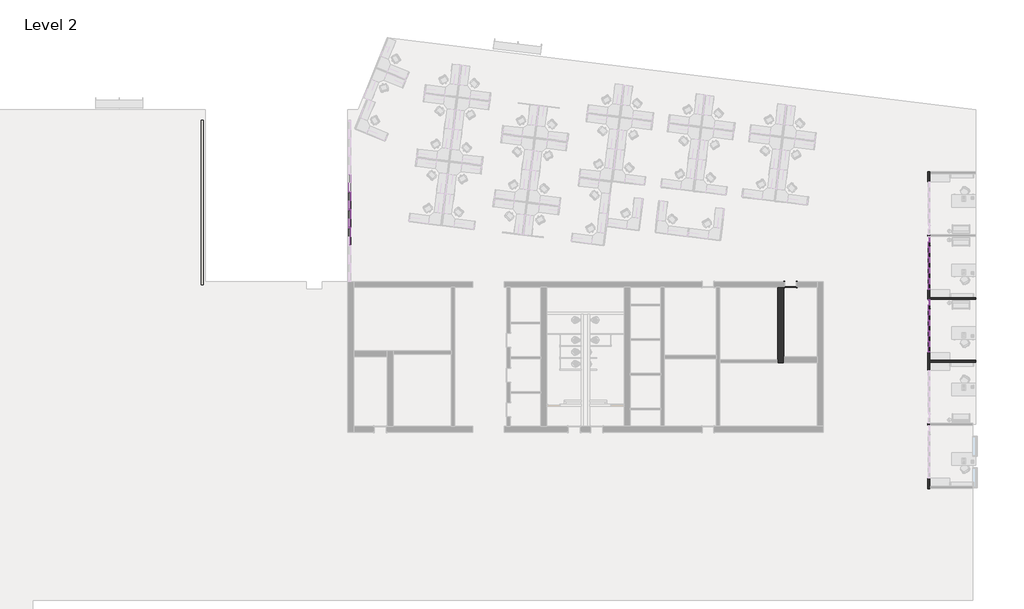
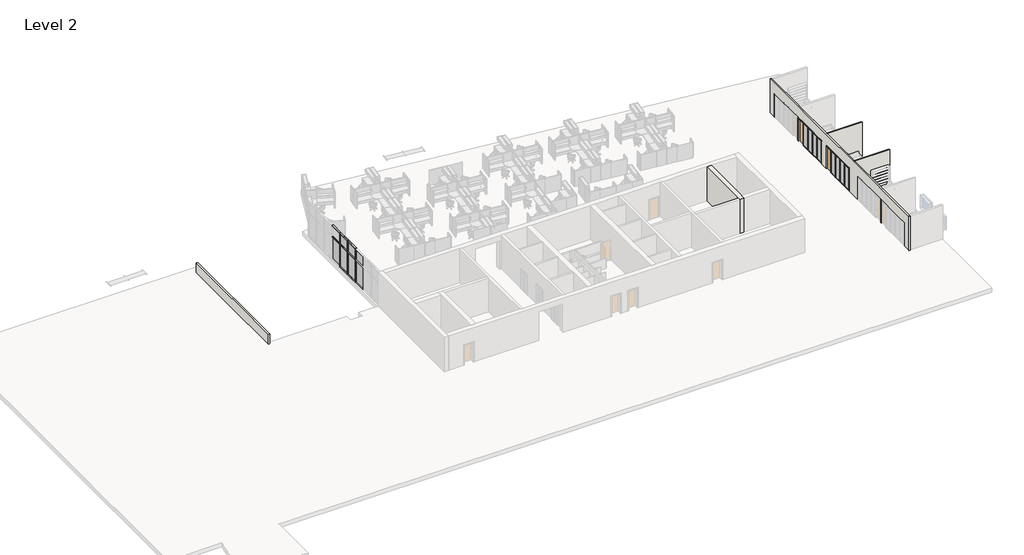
# One storey, part 3 of 7: 64 members, 25 plates, 7 walls, 3 doors.
"""IFC4 building model written with IfcOpenShell, lengths in millimetres."""

from ifc_helpers import new_model, si_unit, frame, origin, place, context, project, spatial, polyline, outline, extrude, faceted_brep, transform, mapped, element, save
from components import curtain_wall_sgl_glass_curtain_wall_sgl_glass_683140d0, door_3c99239a, member_9597caa3, member_b2bde9e6, member_7ffbafd8, member_47ea2df9, member_5507c937, member_0e55f5ff, member_ee409385, member_6d48148e, member_7899ddbe, member_c64c2408, member_866a01fa, member_13474e0d, system_panel_glazed_8093bbd9, system_panel_glazed_50fd444c, system_panel_glazed_f79f5f4b, system_panel_glazed_e5c5d69c

model = new_model("IFC4")

# Units and contexts
model_context = context("Model", 3, world=origin())
ifc_project = project(units=[si_unit("LENGTHUNIT", "METRE", prefix="MILLI")], contexts=[model_context])

# Site, building, storey
site = spatial("IfcSite", under=ifc_project)
building = spatial("IfcBuilding", under=site)
storey = spatial("IfcBuildingStorey", under=building, Name="Level 2", Elevation=3657.6)

# Doors
placement = place(None, origin())
curtain_wall_sgl_glass_curtain_wall_sgl_glass_shape = curtain_wall_sgl_glass_curtain_wall_sgl_glass_683140d0(model_context)
element("IfcDoor", 1, ObjectType="Curtain Wall Sgl Glass : Curtain Wall Sgl Glass", at=placement, inside=storey, context=model_context, shape_type="MappedRepresentation", body=[
    mapped(curtain_wall_sgl_glass_curtain_wall_sgl_glass_shape, transform((11449.2054088, -211.6299475, 3657.6), x_axis=(0.0, 1.0, 0.0), y_axis=(-1.0, 0.0, 0.0), z_axis=(0.0, 0.0, 1.0))),
])
element("IfcDoor", 2, ObjectType="Curtain Wall Sgl Glass : Curtain Wall Sgl Glass", at=placement, inside=storey, context=model_context, shape_type="MappedRepresentation", body=[
    mapped(curtain_wall_sgl_glass_curtain_wall_sgl_glass_shape, transform((11449.2054088, -5046.1342481, 3657.6), x_axis=(0.0, 1.0, 0.0), y_axis=(-1.0, 0.0, 0.0), z_axis=(0.0, 0.0, 1.0))),
])
door_shape = door_3c99239a(model_context)
element("IfcDoor", 3, ObjectType="Single-Flush : 36\" x 84\"", at=placement, inside=storey, context=model_context, shape_type="MappedRepresentation", body=[
    mapped(door_shape, transform((817.7000645, -3469.6103492, 3657.6), x_axis=(-1.0, 0.0, 0.0), y_axis=(0.0, -1.0, 0.0), z_axis=(0.0, 0.0, 1.0))),
])

# Members
member_shape = member_9597caa3(model_context)
element("IfcMember", 4, ObjectType="Rectangular Mullion : 2.5\" x 5\" rectangular", at=placement, inside=storey, context=model_context, shape_type="MappedRepresentation", body=[
    mapped(member_shape, transform((-33055.0142212, 3645.211873, 3721.1), x_axis=(0.0, -1.0, 0.0), y_axis=(-1.0, 0.0, 0.0), z_axis=(0.0, 0.0, -1.0))),
])
element("IfcMember", 5, ObjectType="Rectangular Mullion : 2.5\" x 5\" rectangular", at=placement, inside=storey, context=model_context, shape_type="MappedRepresentation", body=[
    mapped(member_shape, transform((-33055.0142212, 2267.9674286, 3721.1), x_axis=(0.0, -1.0, 0.0), y_axis=(-1.0, 0.0, 0.0), z_axis=(0.0, 0.0, -1.0))),
])
element("IfcMember", 6, ObjectType="Rectangular Mullion : 2.5\" x 5\" rectangular", at=placement, inside=storey, context=model_context, shape_type="MappedRepresentation", body=[
    mapped(member_shape, transform((-33055.0142212, 890.7229841, 3721.1), x_axis=(0.0, -1.0, 0.0), y_axis=(-1.0, 0.0, 0.0), z_axis=(0.0, 0.0, -1.0))),
])
element("IfcMember", 7, ObjectType="Rectangular Mullion : 2.5\" x 5\" rectangular", at=placement, inside=storey, context=model_context, shape_type="MappedRepresentation", body=[
    mapped(member_shape, transform((11449.2054088, -612.9499475, 3721.1), x_axis=(0.0, -1.0, 0.0), y_axis=(-1.0, 0.0, 0.0), z_axis=(0.0, 0.0, -1.0))),
])
element("IfcMember", 8, ObjectType="Rectangular Mullion : 2.5\" x 5\" rectangular", at=placement, inside=storey, context=model_context, shape_type="MappedRepresentation", body=[
    mapped(member_shape, transform((11449.2054088, -1415.5899475, 3721.1), x_axis=(0.0, -1.0, 0.0), y_axis=(-1.0, 0.0, 0.0), z_axis=(0.0, 0.0, -1.0))),
])
element("IfcMember", 9, ObjectType="Rectangular Mullion : 2.5\" x 5\" rectangular", at=placement, inside=storey, context=model_context, shape_type="MappedRepresentation", body=[
    mapped(member_shape, transform((11449.2054088, -2218.2299475, 3721.1), x_axis=(0.0, -1.0, 0.0), y_axis=(-1.0, 0.0, 0.0), z_axis=(0.0, 0.0, -1.0))),
])
element("IfcMember", 10, ObjectType="Rectangular Mullion : 2.5\" x 5\" rectangular", at=placement, inside=storey, context=model_context, shape_type="MappedRepresentation", body=[
    mapped(member_shape, transform((11449.2054088, -3020.8699475, 3721.1), x_axis=(0.0, -1.0, 0.0), y_axis=(-1.0, 0.0, 0.0), z_axis=(0.0, 0.0, -1.0))),
])
element("IfcMember", 11, ObjectType="Rectangular Mullion : 2.5\" x 5\" rectangular", at=placement, inside=storey, context=model_context, shape_type="MappedRepresentation", body=[
    mapped(member_shape, transform((11449.2054088, -5447.4542481, 3721.1), x_axis=(0.0, -1.0, 0.0), y_axis=(-1.0, 0.0, 0.0), z_axis=(0.0, 0.0, -1.0))),
])
element("IfcMember", 12, ObjectType="Rectangular Mullion : 2.5\" x 5\" rectangular", at=placement, inside=storey, context=model_context, shape_type="MappedRepresentation", body=[
    mapped(member_shape, transform((11449.2054088, -6250.0942481, 3721.1), x_axis=(0.0, -1.0, 0.0), y_axis=(-1.0, 0.0, 0.0), z_axis=(0.0, 0.0, -1.0))),
])
element("IfcMember", 13, ObjectType="Rectangular Mullion : 2.5\" x 5\" rectangular", at=placement, inside=storey, context=model_context, shape_type="MappedRepresentation", body=[
    mapped(member_shape, transform((11449.2054088, -7052.7342481, 3721.1), x_axis=(0.0, -1.0, 0.0), y_axis=(-1.0, 0.0, 0.0), z_axis=(0.0, 0.0, -1.0))),
])
element("IfcMember", 14, ObjectType="Rectangular Mullion : 2.5\" x 5\" rectangular", at=placement, inside=storey, context=model_context, shape_type="MappedRepresentation", body=[
    mapped(member_shape, transform((11449.2054088, -7855.3742481, 3721.1), x_axis=(0.0, -1.0, 0.0), y_axis=(-1.0, 0.0, 0.0), z_axis=(0.0, 0.0, -1.0))),
])
member_2_shape = member_b2bde9e6(model_context)
element("IfcMember", 15, ObjectType="Rectangular Mullion : 2.5\" x 5\" rectangular", at=placement, inside=storey, context=model_context, shape_type="MappedRepresentation", body=[
    mapped(member_2_shape, transform((11449.2054088, -3855.2599475, 3721.1), x_axis=(0.0, -1.0, 0.0), y_axis=(-1.0, 0.0, 0.0), z_axis=(0.0, 0.0, -1.0))),
])
element("IfcMember", 16, ObjectType="Rectangular Mullion : 2.5\" x 5\" rectangular", at=placement, inside=storey, context=model_context, shape_type="MappedRepresentation", body=[
    mapped(member_2_shape, transform((11449.2054088, -8689.7642481, 3721.1), x_axis=(0.0, -1.0, 0.0), y_axis=(-1.0, 0.0, 0.0), z_axis=(0.0, 0.0, -1.0))),
])
member_3_shape = member_7ffbafd8(model_context)
element("IfcMember", 17, ObjectType="Rectangular Mullion : 2.5\" x 5\" rectangular", at=placement, inside=storey, context=model_context, shape_type="MappedRepresentation", body=[
    mapped(member_3_shape, transform((11449.2054088, -3855.2599475, 6197.6), x_axis=(0.0, 0.0, 1.0), y_axis=(-1.0, 0.0, 0.0), z_axis=(0.0, -1.0, 0.0))),
])
element("IfcMember", 18, ObjectType="Rectangular Mullion : 2.5\" x 5\" rectangular", at=placement, inside=storey, context=model_context, shape_type="MappedRepresentation", body=[
    mapped(member_3_shape, transform((11449.2054088, -612.9499475, 6197.6), x_axis=(0.0, 0.0, 1.0), y_axis=(-1.0, 0.0, 0.0), z_axis=(0.0, -1.0, 0.0))),
])
element("IfcMember", 19, ObjectType="Rectangular Mullion : 2.5\" x 5\" rectangular", at=placement, inside=storey, context=model_context, shape_type="MappedRepresentation", body=[
    mapped(member_3_shape, transform((11449.2054088, -5447.4542481, 6197.6), x_axis=(0.0, 0.0, 1.0), y_axis=(-1.0, 0.0, 0.0), z_axis=(0.0, -1.0, 0.0))),
])
element("IfcMember", 20, ObjectType="Rectangular Mullion : 2.5\" x 5\" rectangular", at=placement, inside=storey, context=model_context, shape_type="MappedRepresentation", body=[
    mapped(member_3_shape, transform((11449.2054088, -581.1999475, 3657.6), x_axis=(0.0, 0.0, -1.0), y_axis=(-1.0, 0.0, 0.0), z_axis=(0.0, 1.0, 0.0))),
])
element("IfcMember", 21, ObjectType="Rectangular Mullion : 2.5\" x 5\" rectangular", at=placement, inside=storey, context=model_context, shape_type="MappedRepresentation", body=[
    mapped(member_3_shape, transform((11449.2054088, -5415.7042481, 3657.6), x_axis=(0.0, 0.0, -1.0), y_axis=(-1.0, 0.0, 0.0), z_axis=(0.0, 1.0, 0.0))),
])
member_4_shape = member_47ea2df9(model_context)
element("IfcMember", 22, ObjectType="Rectangular Mullion : 2.5\" x 5\" rectangular", at=placement, inside=storey, context=model_context, shape_type="MappedRepresentation", body=[
    mapped(member_4_shape, transform((11449.2054088, -1415.5899475, 6096.0), x_axis=(0.0, 0.0, 1.0), y_axis=(-1.0, 0.0, 0.0), z_axis=(0.0, -1.0, 0.0))),
])
element("IfcMember", 23, ObjectType="Rectangular Mullion : 2.5\" x 5\" rectangular", at=placement, inside=storey, context=model_context, shape_type="MappedRepresentation", body=[
    mapped(member_4_shape, transform((11449.2054088, -2218.2299475, 6096.0), x_axis=(0.0, 0.0, 1.0), y_axis=(-1.0, 0.0, 0.0), z_axis=(0.0, -1.0, 0.0))),
])
element("IfcMember", 24, ObjectType="Rectangular Mullion : 2.5\" x 5\" rectangular", at=placement, inside=storey, context=model_context, shape_type="MappedRepresentation", body=[
    mapped(member_4_shape, transform((11449.2054088, -3020.8699475, 6096.0), x_axis=(0.0, 0.0, 1.0), y_axis=(-1.0, 0.0, 0.0), z_axis=(0.0, -1.0, 0.0))),
])
element("IfcMember", 25, ObjectType="Rectangular Mullion : 2.5\" x 5\" rectangular", at=placement, inside=storey, context=model_context, shape_type="MappedRepresentation", body=[
    mapped(member_4_shape, transform((11449.2054088, -6250.0942481, 6096.0), x_axis=(0.0, 0.0, 1.0), y_axis=(-1.0, 0.0, 0.0), z_axis=(0.0, -1.0, 0.0))),
])
element("IfcMember", 26, ObjectType="Rectangular Mullion : 2.5\" x 5\" rectangular", at=placement, inside=storey, context=model_context, shape_type="MappedRepresentation", body=[
    mapped(member_4_shape, transform((11449.2054088, -7052.7342481, 6096.0), x_axis=(0.0, 0.0, 1.0), y_axis=(-1.0, 0.0, 0.0), z_axis=(0.0, -1.0, 0.0))),
])
element("IfcMember", 27, ObjectType="Rectangular Mullion : 2.5\" x 5\" rectangular", at=placement, inside=storey, context=model_context, shape_type="MappedRepresentation", body=[
    mapped(member_4_shape, transform((11449.2054088, -7855.3742481, 6096.0), x_axis=(0.0, 0.0, 1.0), y_axis=(-1.0, 0.0, 0.0), z_axis=(0.0, -1.0, 0.0))),
])
member_5_shape = member_5507c937(model_context)
element("IfcMember", 28, ObjectType="Rectangular Mullion : 2.5\" x 5\" rectangular", at=placement, inside=storey, context=model_context, shape_type="MappedRepresentation", body=[
    mapped(member_5_shape, transform((11449.2054088, -1415.5899475, 6197.6), x_axis=(0.0, 0.0, 1.0), y_axis=(-1.0, 0.0, 0.0), z_axis=(0.0, -1.0, 0.0))),
])
element("IfcMember", 29, ObjectType="Rectangular Mullion : 2.5\" x 5\" rectangular", at=placement, inside=storey, context=model_context, shape_type="MappedRepresentation", body=[
    mapped(member_5_shape, transform((11449.2054088, -2218.2299475, 6197.6), x_axis=(0.0, 0.0, 1.0), y_axis=(-1.0, 0.0, 0.0), z_axis=(0.0, -1.0, 0.0))),
])
element("IfcMember", 30, ObjectType="Rectangular Mullion : 2.5\" x 5\" rectangular", at=placement, inside=storey, context=model_context, shape_type="MappedRepresentation", body=[
    mapped(member_5_shape, transform((11449.2054088, -3020.8699475, 6197.6), x_axis=(0.0, 0.0, 1.0), y_axis=(-1.0, 0.0, 0.0), z_axis=(0.0, -1.0, 0.0))),
])
element("IfcMember", 31, ObjectType="Rectangular Mullion : 2.5\" x 5\" rectangular", at=placement, inside=storey, context=model_context, shape_type="MappedRepresentation", body=[
    mapped(member_5_shape, transform((11449.2054088, -6250.0942481, 6197.6), x_axis=(0.0, 0.0, 1.0), y_axis=(-1.0, 0.0, 0.0), z_axis=(0.0, -1.0, 0.0))),
])
element("IfcMember", 32, ObjectType="Rectangular Mullion : 2.5\" x 5\" rectangular", at=placement, inside=storey, context=model_context, shape_type="MappedRepresentation", body=[
    mapped(member_5_shape, transform((11449.2054088, -7052.7342481, 6197.6), x_axis=(0.0, 0.0, 1.0), y_axis=(-1.0, 0.0, 0.0), z_axis=(0.0, -1.0, 0.0))),
])
element("IfcMember", 33, ObjectType="Rectangular Mullion : 2.5\" x 5\" rectangular", at=placement, inside=storey, context=model_context, shape_type="MappedRepresentation", body=[
    mapped(member_5_shape, transform((11449.2054088, -7855.3742481, 6197.6), x_axis=(0.0, 0.0, 1.0), y_axis=(-1.0, 0.0, 0.0), z_axis=(0.0, -1.0, 0.0))),
])
element("IfcMember", 34, ObjectType="Rectangular Mullion : 2.5\" x 5\" rectangular", at=placement, inside=storey, context=model_context, shape_type="MappedRepresentation", body=[
    mapped(member_5_shape, transform((11449.2054088, -1415.5899475, 3657.6), x_axis=(0.0, 0.0, -1.0), y_axis=(-1.0, 0.0, 0.0), z_axis=(0.0, 1.0, 0.0))),
])
element("IfcMember", 35, ObjectType="Rectangular Mullion : 2.5\" x 5\" rectangular", at=placement, inside=storey, context=model_context, shape_type="MappedRepresentation", body=[
    mapped(member_5_shape, transform((11449.2054088, -2218.2299475, 3657.6), x_axis=(0.0, 0.0, -1.0), y_axis=(-1.0, 0.0, 0.0), z_axis=(0.0, 1.0, 0.0))),
])
element("IfcMember", 36, ObjectType="Rectangular Mullion : 2.5\" x 5\" rectangular", at=placement, inside=storey, context=model_context, shape_type="MappedRepresentation", body=[
    mapped(member_5_shape, transform((11449.2054088, -6250.0942481, 3657.6), x_axis=(0.0, 0.0, -1.0), y_axis=(-1.0, 0.0, 0.0), z_axis=(0.0, 1.0, 0.0))),
])
element("IfcMember", 37, ObjectType="Rectangular Mullion : 2.5\" x 5\" rectangular", at=placement, inside=storey, context=model_context, shape_type="MappedRepresentation", body=[
    mapped(member_5_shape, transform((11449.2054088, -7052.7342481, 3657.6), x_axis=(0.0, 0.0, -1.0), y_axis=(-1.0, 0.0, 0.0), z_axis=(0.0, 1.0, 0.0))),
])
element("IfcMember", 38, ObjectType="Rectangular Mullion : 2.5\" x 5\" rectangular", at=placement, inside=storey, context=model_context, shape_type="MappedRepresentation", body=[
    mapped(member_3_shape, transform((11449.2054088, -3020.8699475, 3657.6), x_axis=(0.0, 0.0, -1.0), y_axis=(-1.0, 0.0, 0.0), z_axis=(0.0, 1.0, 0.0))),
])
element("IfcMember", 39, ObjectType="Rectangular Mullion : 2.5\" x 5\" rectangular", at=placement, inside=storey, context=model_context, shape_type="MappedRepresentation", body=[
    mapped(member_3_shape, transform((11449.2054088, -7855.3742481, 3657.6), x_axis=(0.0, 0.0, -1.0), y_axis=(-1.0, 0.0, 0.0), z_axis=(0.0, 1.0, 0.0))),
])
member_6_shape = member_0e55f5ff(model_context)
element("IfcMember", 40, ObjectType="Rectangular Mullion : 2.5\" x 5\" rectangular", at=placement, inside=storey, context=model_context, shape_type="MappedRepresentation", body=[
    mapped(member_6_shape, transform((11449.2054088, -3791.7599475, 6096.0), x_axis=(0.0, 0.0, 1.0), y_axis=(-1.0, 0.0, 0.0), z_axis=(0.0, -1.0, 0.0))),
])
element("IfcMember", 41, ObjectType="Rectangular Mullion : 2.5\" x 5\" rectangular", at=placement, inside=storey, context=model_context, shape_type="MappedRepresentation", body=[
    mapped(member_6_shape, transform((11449.2054088, -8626.2642481, 6096.0), x_axis=(0.0, 0.0, 1.0), y_axis=(-1.0, 0.0, 0.0), z_axis=(0.0, -1.0, 0.0))),
])
element("IfcMember", 42, ObjectType="Rectangular Mullion : 2.5\" x 5\" rectangular", at=placement, inside=storey, context=model_context, shape_type="MappedRepresentation", body=[
    mapped(member_6_shape, transform((11449.2054088, -612.9499475, 6096.0), x_axis=(0.0, 0.0, 1.0), y_axis=(-1.0, 0.0, 0.0), z_axis=(0.0, -1.0, 0.0))),
])
element("IfcMember", 43, ObjectType="Rectangular Mullion : 2.5\" x 5\" rectangular", at=placement, inside=storey, context=model_context, shape_type="MappedRepresentation", body=[
    mapped(member_6_shape, transform((11449.2054088, -5447.4542481, 6096.0), x_axis=(0.0, 0.0, 1.0), y_axis=(-1.0, 0.0, 0.0), z_axis=(0.0, -1.0, 0.0))),
])
member_7_shape = member_ee409385(model_context)
element("IfcMember", 44, ObjectType="Rectangular Mullion : 2.5\" x 5\" rectangular", at=placement, inside=storey, context=model_context, shape_type="MappedRepresentation", body=[
    mapped(member_7_shape, transform((11449.2054088, -4613.0642481, 6096.0), x_axis=(0.0, 1.0, 0.0), y_axis=(-1.0, 0.0, 0.0), z_axis=(0.0, 0.0, 1.0))),
])
member_8_shape = member_6d48148e(model_context)
element("IfcMember", 45, ObjectType="Rectangular Mullion : 2.5\" x 5\" rectangular", at=placement, inside=storey, context=model_context, shape_type="MappedRepresentation", body=[
    mapped(member_8_shape, transform((11449.2054088, -612.9499475, 6127.75), x_axis=(0.0, -1.0, 0.0), y_axis=(-1.0, 0.0, 0.0), z_axis=(0.0, 0.0, -1.0))),
])
element("IfcMember", 46, ObjectType="Rectangular Mullion : 2.5\" x 5\" rectangular", at=placement, inside=storey, context=model_context, shape_type="MappedRepresentation", body=[
    mapped(member_8_shape, transform((11449.2054088, -1415.5899475, 6127.75), x_axis=(0.0, -1.0, 0.0), y_axis=(-1.0, 0.0, 0.0), z_axis=(0.0, 0.0, -1.0))),
])
element("IfcMember", 47, ObjectType="Rectangular Mullion : 2.5\" x 5\" rectangular", at=placement, inside=storey, context=model_context, shape_type="MappedRepresentation", body=[
    mapped(member_8_shape, transform((11449.2054088, -2218.2299475, 6127.75), x_axis=(0.0, -1.0, 0.0), y_axis=(-1.0, 0.0, 0.0), z_axis=(0.0, 0.0, -1.0))),
])
element("IfcMember", 48, ObjectType="Rectangular Mullion : 2.5\" x 5\" rectangular", at=placement, inside=storey, context=model_context, shape_type="MappedRepresentation", body=[
    mapped(member_8_shape, transform((11449.2054088, -3020.8699475, 6127.75), x_axis=(0.0, -1.0, 0.0), y_axis=(-1.0, 0.0, 0.0), z_axis=(0.0, 0.0, -1.0))),
])
element("IfcMember", 49, ObjectType="Rectangular Mullion : 2.5\" x 5\" rectangular", at=placement, inside=storey, context=model_context, shape_type="MappedRepresentation", body=[
    mapped(member_8_shape, transform((11449.2054088, -5447.4542481, 6127.75), x_axis=(0.0, -1.0, 0.0), y_axis=(-1.0, 0.0, 0.0), z_axis=(0.0, 0.0, -1.0))),
])
element("IfcMember", 50, ObjectType="Rectangular Mullion : 2.5\" x 5\" rectangular", at=placement, inside=storey, context=model_context, shape_type="MappedRepresentation", body=[
    mapped(member_8_shape, transform((11449.2054088, -6250.0942481, 6127.75), x_axis=(0.0, -1.0, 0.0), y_axis=(-1.0, 0.0, 0.0), z_axis=(0.0, 0.0, -1.0))),
])
element("IfcMember", 51, ObjectType="Rectangular Mullion : 2.5\" x 5\" rectangular", at=placement, inside=storey, context=model_context, shape_type="MappedRepresentation", body=[
    mapped(member_8_shape, transform((11449.2054088, -7052.7342481, 6127.75), x_axis=(0.0, -1.0, 0.0), y_axis=(-1.0, 0.0, 0.0), z_axis=(0.0, 0.0, -1.0))),
])
element("IfcMember", 52, ObjectType="Rectangular Mullion : 2.5\" x 5\" rectangular", at=placement, inside=storey, context=model_context, shape_type="MappedRepresentation", body=[
    mapped(member_8_shape, transform((11449.2054088, -7855.3742481, 6127.75), x_axis=(0.0, -1.0, 0.0), y_axis=(-1.0, 0.0, 0.0), z_axis=(0.0, 0.0, -1.0))),
])
member_9_shape = member_7899ddbe(model_context)
element("IfcMember", 53, ObjectType="Rectangular Mullion : 2.5\" x 5\" rectangular", at=placement, inside=storey, context=model_context, shape_type="MappedRepresentation", body=[
    mapped(member_9_shape, transform((11449.2054088, -3855.2599475, 6096.0), x_axis=(0.0, -1.0, 0.0), y_axis=(-1.0, 0.0, 0.0), z_axis=(0.0, 0.0, -1.0))),
])
element("IfcMember", 54, ObjectType="Rectangular Mullion : 2.5\" x 5\" rectangular", at=placement, inside=storey, context=model_context, shape_type="MappedRepresentation", body=[
    mapped(member_9_shape, transform((11449.2054088, -8689.7642481, 6096.0), x_axis=(0.0, -1.0, 0.0), y_axis=(-1.0, 0.0, 0.0), z_axis=(0.0, 0.0, -1.0))),
])
element("IfcMember", 55, ObjectType="Rectangular Mullion : 2.5\" x 5\" rectangular", at=placement, inside=storey, context=model_context, shape_type="MappedRepresentation", body=[
    mapped(member_9_shape, transform((11449.2054088, -4613.0642481, 6134.1), x_axis=(0.0, 1.0, 0.0), y_axis=(-1.0, 0.0, 0.0), z_axis=(0.0, 0.0, 1.0))),
])
member_10_shape = member_c64c2408(model_context)
element("IfcMember", 56, ObjectType="Rectangular Mullion : 2.5\" x 5\" rectangular", at=placement, inside=storey, context=model_context, shape_type="MappedRepresentation", body=[
    mapped(member_10_shape, transform((-33055.0142212, 3645.211873, 7315.2), x_axis=(0.0, 0.0, 1.0), y_axis=(-1.0, 0.0, 0.0), z_axis=(0.0, -1.0, 0.0))),
])
element("IfcMember", 57, ObjectType="Rectangular Mullion : 2.5\" x 5\" rectangular", at=placement, inside=storey, context=model_context, shape_type="MappedRepresentation", body=[
    mapped(member_10_shape, transform((-33055.0142212, 2267.9674286, 7315.2), x_axis=(0.0, 0.0, 1.0), y_axis=(-1.0, 0.0, 0.0), z_axis=(0.0, -1.0, 0.0))),
])
element("IfcMember", 58, ObjectType="Rectangular Mullion : 2.5\" x 5\" rectangular", at=placement, inside=storey, context=model_context, shape_type="MappedRepresentation", body=[
    mapped(member_10_shape, transform((-33055.0142212, 890.7229841, 7315.2), x_axis=(0.0, 0.0, 1.0), y_axis=(-1.0, 0.0, 0.0), z_axis=(0.0, -1.0, 0.0))),
])
element("IfcMember", 59, ObjectType="Rectangular Mullion : 2.5\" x 5\" rectangular", at=placement, inside=storey, context=model_context, shape_type="MappedRepresentation", body=[
    mapped(member_10_shape, transform((-33055.0142212, 3645.211873, 3657.6), x_axis=(0.0, 0.0, -1.0), y_axis=(-1.0, 0.0, 0.0), z_axis=(0.0, 1.0, 0.0))),
])
element("IfcMember", 60, ObjectType="Rectangular Mullion : 2.5\" x 5\" rectangular", at=placement, inside=storey, context=model_context, shape_type="MappedRepresentation", body=[
    mapped(member_10_shape, transform((-33055.0142212, 2267.9674286, 3657.6), x_axis=(0.0, 0.0, -1.0), y_axis=(-1.0, 0.0, 0.0), z_axis=(0.0, 1.0, 0.0))),
])
element("IfcMember", 61, ObjectType="Rectangular Mullion : 2.5\" x 5\" rectangular", at=placement, inside=storey, context=model_context, shape_type="MappedRepresentation", body=[
    mapped(member_10_shape, transform((-33055.0142212, 890.7229841, 3657.6), x_axis=(0.0, 0.0, -1.0), y_axis=(-1.0, 0.0, 0.0), z_axis=(0.0, 1.0, 0.0))),
])
member_11_shape = member_866a01fa(model_context)
element("IfcMember", 62, ObjectType="Rectangular Mullion : 2.5\" x 5\" rectangular", at=placement, inside=storey, context=model_context, shape_type="MappedRepresentation", body=[
    mapped(member_11_shape, transform((-33055.0142212, 3645.211873, 6127.75), x_axis=(0.0, -1.0, 0.0), y_axis=(-1.0, 0.0, 0.0), z_axis=(0.0, 0.0, -1.0))),
])
element("IfcMember", 63, ObjectType="Rectangular Mullion : 2.5\" x 5\" rectangular", at=placement, inside=storey, context=model_context, shape_type="MappedRepresentation", body=[
    mapped(member_11_shape, transform((-33055.0142212, 2267.9674286, 6127.75), x_axis=(0.0, -1.0, 0.0), y_axis=(-1.0, 0.0, 0.0), z_axis=(0.0, 0.0, -1.0))),
])
element("IfcMember", 64, ObjectType="Rectangular Mullion : 2.5\" x 5\" rectangular", at=placement, inside=storey, context=model_context, shape_type="MappedRepresentation", body=[
    mapped(member_11_shape, transform((-33055.0142212, 890.7229841, 6127.75), x_axis=(0.0, -1.0, 0.0), y_axis=(-1.0, 0.0, 0.0), z_axis=(0.0, 0.0, -1.0))),
])
member_12_shape = member_13474e0d(model_context)
element("IfcMember", 65, ObjectType="Rectangular Mullion : 2.5\" x 5\" rectangular", at=placement, inside=storey, context=model_context, shape_type="MappedRepresentation", body=[
    mapped(member_12_shape, transform((-33055.0142212, 3645.211873, 6096.0), x_axis=(0.0, 0.0, 1.0), y_axis=(-1.0, 0.0, 0.0), z_axis=(0.0, -1.0, 0.0))),
])
element("IfcMember", 66, ObjectType="Rectangular Mullion : 2.5\" x 5\" rectangular", at=placement, inside=storey, context=model_context, shape_type="MappedRepresentation", body=[
    mapped(member_12_shape, transform((-33055.0142212, 2267.9674286, 6096.0), x_axis=(0.0, 0.0, 1.0), y_axis=(-1.0, 0.0, 0.0), z_axis=(0.0, -1.0, 0.0))),
])
element("IfcMember", 67, ObjectType="Rectangular Mullion : 2.5\" x 5\" rectangular", at=placement, inside=storey, context=model_context, shape_type="MappedRepresentation", body=[
    mapped(member_12_shape, transform((-33055.0142212, 890.7229841, 6096.0), x_axis=(0.0, 0.0, 1.0), y_axis=(-1.0, 0.0, 0.0), z_axis=(0.0, -1.0, 0.0))),
])

# Plates
system_panel_glazed_shape = system_panel_glazed_8093bbd9(model_context)
element("IfcPlate", 68, ObjectType="System Panel : Glazed", at=placement, inside=storey, context=model_context, shape_type="MappedRepresentation", body=[
    mapped(system_panel_glazed_shape, transform((11449.2054088, -1014.2699475, 3721.1), x_axis=(0.0, -1.0, 0.0), y_axis=(1.0, 0.0, 0.0), z_axis=(0.0, 0.0, 1.0))),
])
element("IfcPlate", 69, ObjectType="System Panel : Glazed", at=placement, inside=storey, context=model_context, shape_type="MappedRepresentation", body=[
    mapped(system_panel_glazed_shape, transform((11449.2054088, -1816.9099475, 3721.1), x_axis=(0.0, -1.0, 0.0), y_axis=(1.0, 0.0, 0.0), z_axis=(0.0, 0.0, 1.0))),
])
element("IfcPlate", 70, ObjectType="System Panel : Glazed", at=placement, inside=storey, context=model_context, shape_type="MappedRepresentation", body=[
    mapped(system_panel_glazed_shape, transform((11449.2054088, -2619.5499475, 3721.1), x_axis=(0.0, -1.0, 0.0), y_axis=(1.0, 0.0, 0.0), z_axis=(0.0, 0.0, 1.0))),
])
element("IfcPlate", 71, ObjectType="System Panel : Glazed", at=placement, inside=storey, context=model_context, shape_type="MappedRepresentation", body=[
    mapped(system_panel_glazed_shape, transform((11449.2054088, -3422.1899475, 3721.1), x_axis=(0.0, -1.0, 0.0), y_axis=(1.0, 0.0, 0.0), z_axis=(0.0, 0.0, 1.0))),
])
element("IfcPlate", 72, ObjectType="System Panel : Glazed", at=placement, inside=storey, context=model_context, shape_type="MappedRepresentation", body=[
    mapped(system_panel_glazed_shape, transform((11449.2054088, -5848.7742481, 3721.1), x_axis=(0.0, -1.0, 0.0), y_axis=(1.0, 0.0, 0.0), z_axis=(0.0, 0.0, 1.0))),
])
element("IfcPlate", 73, ObjectType="System Panel : Glazed", at=placement, inside=storey, context=model_context, shape_type="MappedRepresentation", body=[
    mapped(system_panel_glazed_shape, transform((11449.2054088, -6651.4142481, 3721.1), x_axis=(0.0, -1.0, 0.0), y_axis=(1.0, 0.0, 0.0), z_axis=(0.0, 0.0, 1.0))),
])
element("IfcPlate", 74, ObjectType="System Panel : Glazed", at=placement, inside=storey, context=model_context, shape_type="MappedRepresentation", body=[
    mapped(system_panel_glazed_shape, transform((11449.2054088, -7454.0542481, 3721.1), x_axis=(0.0, -1.0, 0.0), y_axis=(1.0, 0.0, 0.0), z_axis=(0.0, 0.0, 1.0))),
])
element("IfcPlate", 75, ObjectType="System Panel : Glazed", at=placement, inside=storey, context=model_context, shape_type="MappedRepresentation", body=[
    mapped(system_panel_glazed_shape, transform((11449.2054088, -8256.6942481, 3721.1), x_axis=(0.0, -1.0, 0.0), y_axis=(1.0, 0.0, 0.0), z_axis=(0.0, 0.0, 1.0))),
])
system_panel_glazed_2_shape = system_panel_glazed_50fd444c(model_context)
element("IfcPlate", 76, ObjectType="System Panel : Glazed", at=placement, inside=storey, context=model_context, shape_type="MappedRepresentation", body=[
    mapped(system_panel_glazed_2_shape, transform((11449.2054088, -211.6299475, 6127.75), x_axis=(0.0, -1.0, 0.0), y_axis=(1.0, 0.0, 0.0), z_axis=(0.0, 0.0, 1.0))),
])
element("IfcPlate", 77, ObjectType="System Panel : Glazed", at=placement, inside=storey, context=model_context, shape_type="MappedRepresentation", body=[
    mapped(system_panel_glazed_2_shape, transform((11449.2054088, -1014.2699475, 6127.75), x_axis=(0.0, -1.0, 0.0), y_axis=(1.0, 0.0, 0.0), z_axis=(0.0, 0.0, 1.0))),
])
element("IfcPlate", 78, ObjectType="System Panel : Glazed", at=placement, inside=storey, context=model_context, shape_type="MappedRepresentation", body=[
    mapped(system_panel_glazed_2_shape, transform((11449.2054088, -1816.9099475, 6127.75), x_axis=(0.0, -1.0, 0.0), y_axis=(1.0, 0.0, 0.0), z_axis=(0.0, 0.0, 1.0))),
])
element("IfcPlate", 79, ObjectType="System Panel : Glazed", at=placement, inside=storey, context=model_context, shape_type="MappedRepresentation", body=[
    mapped(system_panel_glazed_2_shape, transform((11449.2054088, -2619.5499475, 6127.75), x_axis=(0.0, -1.0, 0.0), y_axis=(1.0, 0.0, 0.0), z_axis=(0.0, 0.0, 1.0))),
])
element("IfcPlate", 80, ObjectType="System Panel : Glazed", at=placement, inside=storey, context=model_context, shape_type="MappedRepresentation", body=[
    mapped(system_panel_glazed_2_shape, transform((11449.2054088, -3422.1899475, 6127.75), x_axis=(0.0, -1.0, 0.0), y_axis=(1.0, 0.0, 0.0), z_axis=(0.0, 0.0, 1.0))),
])
element("IfcPlate", 81, ObjectType="System Panel : Glazed", at=placement, inside=storey, context=model_context, shape_type="MappedRepresentation", body=[
    mapped(system_panel_glazed_2_shape, transform((11449.2054088, -5046.1342481, 6127.75), x_axis=(0.0, -1.0, 0.0), y_axis=(1.0, 0.0, 0.0), z_axis=(0.0, 0.0, 1.0))),
])
element("IfcPlate", 82, ObjectType="System Panel : Glazed", at=placement, inside=storey, context=model_context, shape_type="MappedRepresentation", body=[
    mapped(system_panel_glazed_2_shape, transform((11449.2054088, -5848.7742481, 6127.75), x_axis=(0.0, -1.0, 0.0), y_axis=(1.0, 0.0, 0.0), z_axis=(0.0, 0.0, 1.0))),
])
element("IfcPlate", 83, ObjectType="System Panel : Glazed", at=placement, inside=storey, context=model_context, shape_type="MappedRepresentation", body=[
    mapped(system_panel_glazed_2_shape, transform((11449.2054088, -6651.4142481, 6127.75), x_axis=(0.0, -1.0, 0.0), y_axis=(1.0, 0.0, 0.0), z_axis=(0.0, 0.0, 1.0))),
])
element("IfcPlate", 84, ObjectType="System Panel : Glazed", at=placement, inside=storey, context=model_context, shape_type="MappedRepresentation", body=[
    mapped(system_panel_glazed_2_shape, transform((11449.2054088, -7454.0542481, 6127.75), x_axis=(0.0, -1.0, 0.0), y_axis=(1.0, 0.0, 0.0), z_axis=(0.0, 0.0, 1.0))),
])
element("IfcPlate", 85, ObjectType="System Panel : Glazed", at=placement, inside=storey, context=model_context, shape_type="MappedRepresentation", body=[
    mapped(system_panel_glazed_2_shape, transform((11449.2054088, -8256.6942481, 6127.75), x_axis=(0.0, -1.0, 0.0), y_axis=(1.0, 0.0, 0.0), z_axis=(0.0, 0.0, 1.0))),
])
system_panel_glazed_3_shape = system_panel_glazed_f79f5f4b(model_context)
element("IfcPlate", 86, ObjectType="System Panel : Glazed", at=placement, inside=storey, context=model_context, shape_type="MappedRepresentation", body=[
    mapped(system_panel_glazed_3_shape, transform((-33055.0142212, 4333.8340952, 3721.1), x_axis=(0.0, -1.0, 0.0), y_axis=(1.0, 0.0, 0.0), z_axis=(0.0, 0.0, 1.0))),
])
element("IfcPlate", 87, ObjectType="System Panel : Glazed", at=placement, inside=storey, context=model_context, shape_type="MappedRepresentation", body=[
    mapped(system_panel_glazed_3_shape, transform((-33055.0142212, 2956.5896508, 3721.1), x_axis=(0.0, -1.0, 0.0), y_axis=(1.0, 0.0, 0.0), z_axis=(0.0, 0.0, 1.0))),
])
element("IfcPlate", 88, ObjectType="System Panel : Glazed", at=placement, inside=storey, context=model_context, shape_type="MappedRepresentation", body=[
    mapped(system_panel_glazed_3_shape, transform((-33055.0142212, 1579.3452064, 3721.1), x_axis=(0.0, -1.0, 0.0), y_axis=(1.0, 0.0, 0.0), z_axis=(0.0, 0.0, 1.0))),
])
element("IfcPlate", 89, ObjectType="System Panel : Glazed", at=placement, inside=storey, context=model_context, shape_type="MappedRepresentation", body=[
    mapped(system_panel_glazed_3_shape, transform((-33055.0142212, 202.1007619, 3721.1), x_axis=(0.0, -1.0, 0.0), y_axis=(1.0, 0.0, 0.0), z_axis=(0.0, 0.0, 1.0))),
])
system_panel_glazed_4_shape = system_panel_glazed_e5c5d69c(model_context)
element("IfcPlate", 90, ObjectType="System Panel : Glazed", at=placement, inside=storey, context=model_context, shape_type="MappedRepresentation", body=[
    mapped(system_panel_glazed_4_shape, transform((-33055.0142212, 2956.5896508, 6127.75), x_axis=(0.0, -1.0, 0.0), y_axis=(1.0, 0.0, 0.0), z_axis=(0.0, 0.0, 1.0))),
])
element("IfcPlate", 91, ObjectType="System Panel : Glazed", at=placement, inside=storey, context=model_context, shape_type="MappedRepresentation", body=[
    mapped(system_panel_glazed_4_shape, transform((-33055.0142212, 1579.3452064, 6127.75), x_axis=(0.0, -1.0, 0.0), y_axis=(1.0, 0.0, 0.0), z_axis=(0.0, 0.0, 1.0))),
])
element("IfcPlate", 92, ObjectType="System Panel : Glazed", at=placement, inside=storey, context=model_context, shape_type="MappedRepresentation", body=[
    mapped(system_panel_glazed_4_shape, transform((-33055.0142212, 202.1007619, 6127.75), x_axis=(0.0, -1.0, 0.0), y_axis=(1.0, 0.0, 0.0), z_axis=(0.0, 0.0, 1.0))),
])

# Walls
element("IfcWall", 93, ObjectType="Core-shaft 18\" Concrete", at=placement, inside=storey, context=model_context, shape_type="Brep", body=[
    faceted_brep([(-172.8999355, -3698.2103492, 3657.6), (-172.8999355, -9235.4103492, 3657.6), (-172.8999355, -9489.4103492, 3657.6), (-172.8999355, -9489.4103492, 7315.2), (-172.8999355, -9235.4103492, 7315.2), (-172.8999355, -3698.2103492, 7315.2), (284.3000645, -3698.2103492, 3657.6), (284.3000645, -3698.2103492, 7315.2), (284.3000645, -9032.2103492, 7315.2), (284.3000645, -9489.4103492, 7315.2), (284.3000645, -9489.4103492, 3657.6), (284.3000645, -9032.2103492, 3657.6)], [[[0, 1, 2, 3, 4, 5]], [[6, 7, 8, 9, 10, 11]], [[2, 1, 0, 6, 11, 10]], [[5, 4, 3, 9, 8, 7]], [[3, 2, 10, 9]], [[0, 5, 7, 6]]]),
])
element("IfcWall", 94, ObjectType="Generic - 5\"", at=placement, inside=storey, context=model_context, shape_type="SweptSolid", body=[
    extrude(outline(polyline([(-44332.6142212, 9154.1896508), (-44332.6142212, -3475.9603492), (-44459.6142212, -3475.9603492), (-44459.6142212, 9154.1896508), (-44332.6142212, 9154.1896508)])), frame((0.0, 0.0, 3657.6), z_axis=(0.0, 0.0, 1.0), x_axis=(1.0, 0.0, 0.0)), (0.0, 0.0, 1.0), 1066.8),
])
element("IfcWall", 95, ObjectType="Interior - 5 1/2\" Partition (1-hr)", at=placement, inside=storey, context=model_context, shape_type="Brep", body=[
    faceted_brep([(11519.0554088, 5195.6443531, 7315.2), (11519.0554088, 5055.9443531, 7315.2), (11519.0554088, 361.1400525, 7315.2), (11519.0554088, 221.4400525, 7315.2), (11519.0554088, -4473.3642481, 7315.2), (11519.0554088, -4613.0642481, 7315.2), (11519.0554088, -9307.8685486, 7315.2), (11519.0554088, -9447.5685486, 7315.2), (11519.0554088, -14142.3728492, 7315.2), (11519.0554088, -14282.0728492, 7315.2), (11519.0554088, -18976.8771498, 7315.2), (11519.0554088, -19116.5771498, 7315.2), (11519.0554088, -19165.2228492, 7315.2), (11519.0554088, -19165.2228492, 3657.6), (11519.0554088, -19116.5771498, 3657.6), (11519.0554088, -18976.8771498, 3657.6), (11519.0554088, -18358.7728492, 3657.6), (11519.0554088, -18358.7728492, 6197.6), (11519.0554088, -14282.0728492, 6197.6), (11519.0554088, -14282.0728492, 3657.6), (11519.0554088, -14142.3728492, 3657.6), (11519.0554088, -14142.3728492, 6197.6), (11519.0554088, -10065.6728492, 6197.6), (11519.0554088, -10065.6728492, 3657.6), (11519.0554088, -9447.5685486, 3657.6), (11519.0554088, -9307.8685486, 3657.6), (11519.0554088, -8689.7642481, 3657.6), (11519.0554088, -8689.7642481, 6197.6), (11519.0554088, -4613.0642481, 6197.6), (11519.0554088, -4613.0642481, 3657.6), (11519.0554088, -4473.3642481, 3657.6), (11519.0554088, -3855.2599475, 3657.6), (11519.0554088, -3855.2599475, 6197.6), (11519.0554088, 221.4400525, 6197.6), (11519.0554088, 221.4400525, 3657.6), (11519.0554088, 361.1400525, 3657.6), (11519.0554088, 361.1400525, 6197.6), (11519.0554088, 4437.8400525, 6197.6), (11519.0554088, 4437.8400525, 3657.6), (11519.0554088, 5055.9443531, 3657.6), (11519.0554088, 5195.6443531, 3657.6), (11379.3554088, -19165.2228492, 7315.2), (11379.3554088, 5195.6443531, 7315.2), (11379.3554088, 5195.6443531, 3657.6), (11379.3554088, 4437.8400525, 3657.6), (11379.3554088, 4437.8400525, 6197.6), (11379.3554088, 361.1400525, 6197.6), (11379.3554088, 361.1400525, 3657.6), (11379.3554088, 221.4400525, 3657.6), (11379.3554088, 221.4400525, 6197.6), (11379.3554088, -3855.2599475, 6197.6), (11379.3554088, -3855.2599475, 3657.6), (11379.3554088, -4613.0642481, 3657.6), (11379.3554088, -4613.0642481, 6197.6), (11379.3554088, -8689.7642481, 6197.6), (11379.3554088, -8689.7642481, 3657.6), (11379.3554088, -10065.6728492, 3657.6), (11379.3554088, -10065.6728492, 6197.6), (11379.3554088, -14142.3728492, 6197.6), (11379.3554088, -14142.3728492, 3657.6), (11379.3554088, -14282.0728492, 3657.6), (11379.3554088, -14282.0728492, 6197.6), (11379.3554088, -18358.7728492, 6197.6), (11379.3554088, -18358.7728492, 3657.6), (11379.3554088, -19165.2228492, 3657.6)], [[[0, 1, 2, 3, 4, 5, 6, 7, 8, 9, 10, 11, 12, 13, 14, 15, 16, 17, 18, 19, 20, 21, 22, 23, 24, 25, 26, 27, 28, 29, 30, 31, 32, 33, 34, 35, 36, 37, 38, 39, 40]], [[41, 42, 43, 44, 45, 46, 47, 48, 49, 50, 51, 52, 53, 54, 55, 56, 57, 58, 59, 60, 61, 62, 63, 64]], [[13, 64, 63, 16, 15, 14]], [[47, 35, 34, 48]], [[38, 44, 43, 40, 39]], [[51, 31, 30, 29, 52]], [[55, 26, 25, 24, 23, 56]], [[59, 20, 19, 60]], [[12, 11, 10, 9, 8, 7, 6, 5, 4, 3, 2, 1, 0, 42, 41]], [[13, 12, 41, 64]], [[36, 35, 47, 46]], [[38, 37, 45, 44]], [[34, 33, 49, 48]], [[32, 31, 51, 50]], [[29, 28, 53, 52]], [[27, 26, 55, 54]], [[21, 20, 59, 58]], [[23, 22, 57, 56]], [[18, 61, 60, 19]], [[62, 17, 16, 63]], [[0, 40, 43, 42]], [[49, 33, 32, 50]], [[45, 37, 36, 46]], [[27, 54, 53, 28]], [[57, 22, 21, 58]], [[17, 62, 61, 18]]]),
])
element("IfcWall", 96, ObjectType="Interior - 5 1/2\" Partition (1-hr)", at=placement, inside=storey, context=model_context, shape_type="SweptSolid", body=[
    extrude(outline(polyline([(11519.0554088, -4473.3642481), (15043.3054088, -4473.3642481), (15043.3054088, -4613.0642481), (11519.0554088, -4613.0642481), (11519.0554088, -4473.3642481)])), frame((0.0, 0.0, 3657.6), z_axis=(0.0, 0.0, 1.0), x_axis=(1.0, 0.0, 0.0)), (0.0, 0.0, 1.0), 3657.6),
])
element("IfcWall", 97, ObjectType="Interior - 5 1/2\" Partition (1-hr)", at=placement, inside=storey, context=model_context, shape_type="SweptSolid", body=[
    extrude(outline(polyline([(11519.0554088, -9307.8685486), (15043.3054088, -9307.8685486), (15043.3054088, -9447.5685486), (11519.0554088, -9447.5685486), (11519.0554088, -9307.8685486)])), frame((0.0, 0.0, 3657.6), z_axis=(0.0, 0.0, 1.0), x_axis=(1.0, 0.0, 0.0)), (0.0, 0.0, 1.0), 3657.6),
])
element("IfcWall", 98, ObjectType="Interior - 5 1/2\" Partition (1-hr)", at=placement, inside=storey, context=model_context, shape_type="SweptSolid", body=[
    extrude(outline(polyline([(11519.0554088, -4473.3642481), (15043.3054088, -4473.3642481), (15043.3054088, -4613.0642481), (11519.0554088, -4613.0642481), (11519.0554088, -4473.3642481)])), frame((0.0, 0.0, 3657.6), z_axis=(0.0, 0.0, 1.0), x_axis=(1.0, 0.0, 0.0)), (0.0, 0.0, 1.0), 3657.6),
])
element("IfcWall", 99, ObjectType="Interior - 5 1/2\" Partition (1-hr)", at=placement, inside=storey, context=model_context, shape_type="SweptSolid", body=[
    extrude(outline(polyline([(11519.0554088, -9307.8685486), (15043.3054088, -9307.8685486), (15043.3054088, -9447.5685486), (11519.0554088, -9447.5685486), (11519.0554088, -9307.8685486)])), frame((0.0, 0.0, 3657.6), z_axis=(0.0, 0.0, 1.0), x_axis=(1.0, 0.0, 0.0)), (0.0, 0.0, 1.0), 3657.6),
])

save(model, "model.ifc")
